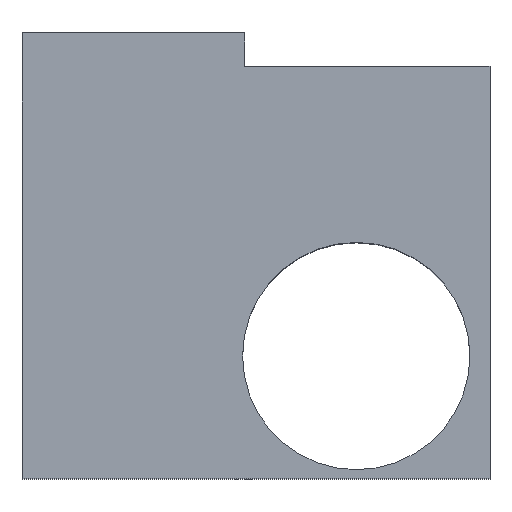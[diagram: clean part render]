
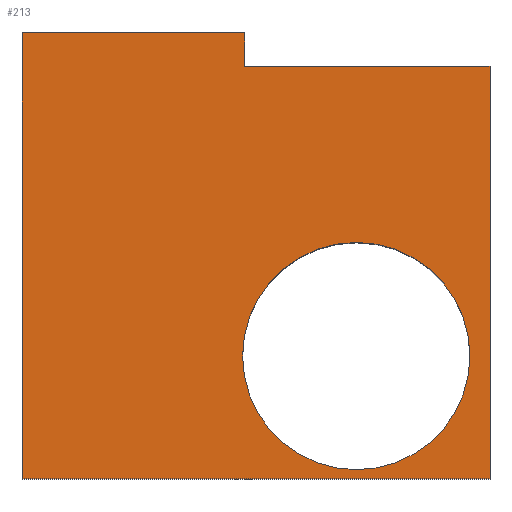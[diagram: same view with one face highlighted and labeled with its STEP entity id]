
A CAD part, top view. The second image highlights one B-rep face of the part: STEP entity #213.
In plain terms, the highlighted planar face has unit normal (0, 0, 1).
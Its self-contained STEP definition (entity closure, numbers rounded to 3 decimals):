
#24 = VERTEX_POINT('',#25);
#25 = CARTESIAN_POINT('',(10.,-3.,13.));
#32 = PLANE('',#33);
#33 = AXIS2_PLACEMENT_3D('',#34,#35,#36);
#34 = CARTESIAN_POINT('',(10.,-40.,-13.));
#35 = DIRECTION('',(-1.,-0.,0.));
#36 = DIRECTION('',(0.,0.,-1.));
#44 = PLANE('',#45);
#45 = AXIS2_PLACEMENT_3D('',#46,#47,#48);
#46 = CARTESIAN_POINT('',(32.,-3.,-13.));
#47 = DIRECTION('',(-0.,1.,0.));
#48 = DIRECTION('',(0.,0.,-1.));
#85 = VERTEX_POINT('',#86);
#86 = CARTESIAN_POINT('',(10.,0.,13.));
#100 = PLANE('',#101);
#101 = AXIS2_PLACEMENT_3D('',#102,#103,#104);
#102 = CARTESIAN_POINT('',(10.,0.,-13.));
#103 = DIRECTION('',(-0.,1.,0.));
#104 = DIRECTION('',(0.,0.,-1.));
#112 = EDGE_CURVE('',#24,#85,#113,.T.);
#113 = SURFACE_CURVE('',#114,(#118,#125),.PCURVE_S1.);
#114 = LINE('',#115,#116);
#115 = CARTESIAN_POINT('',(10.,-40.,13.));
#116 = VECTOR('',#117,1.);
#117 = DIRECTION('',(-0.,1.,0.));
#118 = PCURVE('',#32,#119);
#119 = DEFINITIONAL_REPRESENTATION('',(#120),#124);
#120 = LINE('',#121,#122);
#121 = CARTESIAN_POINT('',(-26.,-0.));
#122 = VECTOR('',#123,1.);
#123 = DIRECTION('',(-0.,-1.));
#124 = ( GEOMETRIC_REPRESENTATION_CONTEXT(2) 
PARAMETRIC_REPRESENTATION_CONTEXT() REPRESENTATION_CONTEXT('2D SPACE',''
  ) );
#125 = PCURVE('',#126,#131);
#126 = PLANE('',#127);
#127 = AXIS2_PLACEMENT_3D('',#128,#129,#130);
#128 = CARTESIAN_POINT('',(10.,-40.,13.));
#129 = DIRECTION('',(-0.,-0.,1.));
#130 = DIRECTION('',(1.,0.,0.));
#131 = DEFINITIONAL_REPRESENTATION('',(#132),#136);
#132 = LINE('',#133,#134);
#133 = CARTESIAN_POINT('',(0.,-0.));
#134 = VECTOR('',#135,1.);
#135 = DIRECTION('',(0.,1.));
#136 = ( GEOMETRIC_REPRESENTATION_CONTEXT(2) 
PARAMETRIC_REPRESENTATION_CONTEXT() REPRESENTATION_CONTEXT('2D SPACE',''
  ) );
#165 = VERTEX_POINT('',#166);
#166 = CARTESIAN_POINT('',(32.,-3.,13.));
#180 = PLANE('',#181);
#181 = AXIS2_PLACEMENT_3D('',#182,#183,#184);
#182 = CARTESIAN_POINT('',(32.,-40.,-13.));
#183 = DIRECTION('',(-1.,-0.,0.));
#184 = DIRECTION('',(0.,0.,-1.));
#192 = EDGE_CURVE('',#165,#24,#193,.T.);
#193 = SURFACE_CURVE('',#194,(#198,#205),.PCURVE_S1.);
#194 = LINE('',#195,#196);
#195 = CARTESIAN_POINT('',(32.,-3.,13.));
#196 = VECTOR('',#197,1.);
#197 = DIRECTION('',(-1.,-0.,0.));
#198 = PCURVE('',#44,#199);
#199 = DEFINITIONAL_REPRESENTATION('',(#200),#204);
#200 = LINE('',#201,#202);
#201 = CARTESIAN_POINT('',(-26.,-0.));
#202 = VECTOR('',#203,1.);
#203 = DIRECTION('',(-0.,1.));
#204 = ( GEOMETRIC_REPRESENTATION_CONTEXT(2) 
PARAMETRIC_REPRESENTATION_CONTEXT() REPRESENTATION_CONTEXT('2D SPACE',''
  ) );
#205 = PCURVE('',#126,#206);
#206 = DEFINITIONAL_REPRESENTATION('',(#207),#211);
#207 = LINE('',#208,#209);
#208 = CARTESIAN_POINT('',(22.,37.));
#209 = VECTOR('',#210,1.);
#210 = DIRECTION('',(-1.,0.));
#211 = ( GEOMETRIC_REPRESENTATION_CONTEXT(2) 
PARAMETRIC_REPRESENTATION_CONTEXT() REPRESENTATION_CONTEXT('2D SPACE',''
  ) );
#213 = ADVANCED_FACE('',(#214,#318),#126,.T.);
#214 = FACE_BOUND('',#215,.F.);
#215 = EDGE_LOOP('',(#216,#217,#218,#241,#269,#297));
#216 = ORIENTED_EDGE('',*,*,#112,.F.);
#217 = ORIENTED_EDGE('',*,*,#192,.F.);
#218 = ORIENTED_EDGE('',*,*,#219,.F.);
#219 = EDGE_CURVE('',#220,#165,#222,.T.);
#220 = VERTEX_POINT('',#221);
#221 = CARTESIAN_POINT('',(32.,-40.,13.));
#222 = SURFACE_CURVE('',#223,(#227,#234),.PCURVE_S1.);
#223 = LINE('',#224,#225);
#224 = CARTESIAN_POINT('',(32.,-40.,13.));
#225 = VECTOR('',#226,1.);
#226 = DIRECTION('',(-0.,1.,0.));
#227 = PCURVE('',#126,#228);
#228 = DEFINITIONAL_REPRESENTATION('',(#229),#233);
#229 = LINE('',#230,#231);
#230 = CARTESIAN_POINT('',(22.,-0.));
#231 = VECTOR('',#232,1.);
#232 = DIRECTION('',(0.,1.));
#233 = ( GEOMETRIC_REPRESENTATION_CONTEXT(2) 
PARAMETRIC_REPRESENTATION_CONTEXT() REPRESENTATION_CONTEXT('2D SPACE',''
  ) );
#234 = PCURVE('',#180,#235);
#235 = DEFINITIONAL_REPRESENTATION('',(#236),#240);
#236 = LINE('',#237,#238);
#237 = CARTESIAN_POINT('',(-26.,-0.));
#238 = VECTOR('',#239,1.);
#239 = DIRECTION('',(-0.,-1.));
#240 = ( GEOMETRIC_REPRESENTATION_CONTEXT(2) 
PARAMETRIC_REPRESENTATION_CONTEXT() REPRESENTATION_CONTEXT('2D SPACE',''
  ) );
#241 = ORIENTED_EDGE('',*,*,#242,.T.);
#242 = EDGE_CURVE('',#220,#243,#245,.T.);
#243 = VERTEX_POINT('',#244);
#244 = CARTESIAN_POINT('',(-10.,-40.,13.));
#245 = SURFACE_CURVE('',#246,(#250,#257),.PCURVE_S1.);
#246 = LINE('',#247,#248);
#247 = CARTESIAN_POINT('',(32.,-40.,13.));
#248 = VECTOR('',#249,1.);
#249 = DIRECTION('',(-1.,-0.,-0.));
#250 = PCURVE('',#126,#251);
#251 = DEFINITIONAL_REPRESENTATION('',(#252),#256);
#252 = LINE('',#253,#254);
#253 = CARTESIAN_POINT('',(22.,-0.));
#254 = VECTOR('',#255,1.);
#255 = DIRECTION('',(-1.,0.));
#256 = ( GEOMETRIC_REPRESENTATION_CONTEXT(2) 
PARAMETRIC_REPRESENTATION_CONTEXT() REPRESENTATION_CONTEXT('2D SPACE',''
  ) );
#257 = PCURVE('',#258,#263);
#258 = PLANE('',#259);
#259 = AXIS2_PLACEMENT_3D('',#260,#261,#262);
#260 = CARTESIAN_POINT('',(10.,-40.,-13.));
#261 = DIRECTION('',(-0.,1.,-0.));
#262 = DIRECTION('',(0.,0.,-1.));
#263 = DEFINITIONAL_REPRESENTATION('',(#264),#268);
#264 = LINE('',#265,#266);
#265 = CARTESIAN_POINT('',(-26.,-22.));
#266 = VECTOR('',#267,1.);
#267 = DIRECTION('',(-0.,1.));
#268 = ( GEOMETRIC_REPRESENTATION_CONTEXT(2) 
PARAMETRIC_REPRESENTATION_CONTEXT() REPRESENTATION_CONTEXT('2D SPACE',''
  ) );
#269 = ORIENTED_EDGE('',*,*,#270,.T.);
#270 = EDGE_CURVE('',#243,#271,#273,.T.);
#271 = VERTEX_POINT('',#272);
#272 = CARTESIAN_POINT('',(-10.,0.,13.));
#273 = SURFACE_CURVE('',#274,(#278,#285),.PCURVE_S1.);
#274 = LINE('',#275,#276);
#275 = CARTESIAN_POINT('',(-10.,-40.,13.));
#276 = VECTOR('',#277,1.);
#277 = DIRECTION('',(-0.,1.,0.));
#278 = PCURVE('',#126,#279);
#279 = DEFINITIONAL_REPRESENTATION('',(#280),#284);
#280 = LINE('',#281,#282);
#281 = CARTESIAN_POINT('',(-20.,0.));
#282 = VECTOR('',#283,1.);
#283 = DIRECTION('',(0.,1.));
#284 = ( GEOMETRIC_REPRESENTATION_CONTEXT(2) 
PARAMETRIC_REPRESENTATION_CONTEXT() REPRESENTATION_CONTEXT('2D SPACE',''
  ) );
#285 = PCURVE('',#286,#291);
#286 = PLANE('',#287);
#287 = AXIS2_PLACEMENT_3D('',#288,#289,#290);
#288 = CARTESIAN_POINT('',(-10.,-40.,-13.));
#289 = DIRECTION('',(-1.,-0.,0.));
#290 = DIRECTION('',(0.,0.,-1.));
#291 = DEFINITIONAL_REPRESENTATION('',(#292),#296);
#292 = LINE('',#293,#294);
#293 = CARTESIAN_POINT('',(-26.,-0.));
#294 = VECTOR('',#295,1.);
#295 = DIRECTION('',(-0.,-1.));
#296 = ( GEOMETRIC_REPRESENTATION_CONTEXT(2) 
PARAMETRIC_REPRESENTATION_CONTEXT() REPRESENTATION_CONTEXT('2D SPACE',''
  ) );
#297 = ORIENTED_EDGE('',*,*,#298,.F.);
#298 = EDGE_CURVE('',#85,#271,#299,.T.);
#299 = SURFACE_CURVE('',#300,(#304,#311),.PCURVE_S1.);
#300 = LINE('',#301,#302);
#301 = CARTESIAN_POINT('',(10.,0.,13.));
#302 = VECTOR('',#303,1.);
#303 = DIRECTION('',(-1.,-0.,0.));
#304 = PCURVE('',#126,#305);
#305 = DEFINITIONAL_REPRESENTATION('',(#306),#310);
#306 = LINE('',#307,#308);
#307 = CARTESIAN_POINT('',(0.,40.));
#308 = VECTOR('',#309,1.);
#309 = DIRECTION('',(-1.,0.));
#310 = ( GEOMETRIC_REPRESENTATION_CONTEXT(2) 
PARAMETRIC_REPRESENTATION_CONTEXT() REPRESENTATION_CONTEXT('2D SPACE',''
  ) );
#311 = PCURVE('',#100,#312);
#312 = DEFINITIONAL_REPRESENTATION('',(#313),#317);
#313 = LINE('',#314,#315);
#314 = CARTESIAN_POINT('',(-26.,-0.));
#315 = VECTOR('',#316,1.);
#316 = DIRECTION('',(-0.,1.));
#317 = ( GEOMETRIC_REPRESENTATION_CONTEXT(2) 
PARAMETRIC_REPRESENTATION_CONTEXT() REPRESENTATION_CONTEXT('2D SPACE',''
  ) );
#318 = FACE_BOUND('',#319,.F.);
#319 = EDGE_LOOP('',(#320));
#320 = ORIENTED_EDGE('',*,*,#321,.T.);
#321 = EDGE_CURVE('',#322,#322,#324,.T.);
#322 = VERTEX_POINT('',#323);
#323 = CARTESIAN_POINT('',(9.8,-29.,13.));
#324 = SURFACE_CURVE('',#325,(#330,#337),.PCURVE_S1.);
#325 = CIRCLE('',#326,10.2);
#326 = AXIS2_PLACEMENT_3D('',#327,#328,#329);
#327 = CARTESIAN_POINT('',(20.,-29.,13.));
#328 = DIRECTION('',(0.,0.,1.));
#329 = DIRECTION('',(-1.,-0.,-0.));
#330 = PCURVE('',#126,#331);
#331 = DEFINITIONAL_REPRESENTATION('',(#332),#336);
#332 = CIRCLE('',#333,10.2);
#333 = AXIS2_PLACEMENT_2D('',#334,#335);
#334 = CARTESIAN_POINT('',(10.,11.));
#335 = DIRECTION('',(-1.,0.));
#336 = ( GEOMETRIC_REPRESENTATION_CONTEXT(2) 
PARAMETRIC_REPRESENTATION_CONTEXT() REPRESENTATION_CONTEXT('2D SPACE',''
  ) );
#337 = PCURVE('',#338,#343);
#338 = CYLINDRICAL_SURFACE('',#339,10.2);
#339 = AXIS2_PLACEMENT_3D('',#340,#341,#342);
#340 = CARTESIAN_POINT('',(20.,-29.,-14.));
#341 = DIRECTION('',(0.,-0.,-1.));
#342 = DIRECTION('',(-1.,-0.,-0.));
#343 = DEFINITIONAL_REPRESENTATION('',(#344),#348);
#344 = LINE('',#345,#346);
#345 = CARTESIAN_POINT('',(6.283,-27.));
#346 = VECTOR('',#347,1.);
#347 = DIRECTION('',(-1.,0.));
#348 = ( GEOMETRIC_REPRESENTATION_CONTEXT(2) 
PARAMETRIC_REPRESENTATION_CONTEXT() REPRESENTATION_CONTEXT('2D SPACE',''
  ) );
